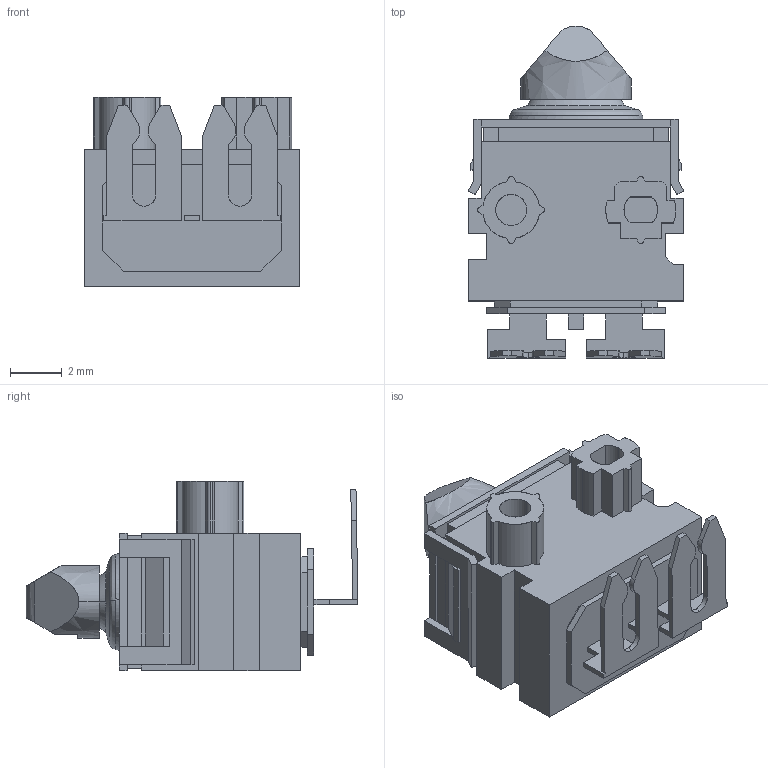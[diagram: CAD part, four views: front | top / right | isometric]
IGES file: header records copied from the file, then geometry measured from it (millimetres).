
Start section: OSMC1.0    IGES FILE using analytic representation for surfaces
Global section: file name: C:\OMRON\Data\D2EW_B02L.igs; native system: SolidWorks 2001Plus by SolidWorks Corporation; preprocessor: Version 5.3; author: sakane; date: 230217.165310; units: millimetre
Bounding box: 8.3 x 12.8 x 7.3 mm (x, y, z)
Surface area: 552.3 mm2 (no closed solid volume)
Topology: 0 solids, 0 shells, 219 faces, 1672 edges, 1672 vertices
Faces by surface type: bspline 189, revolution 30
